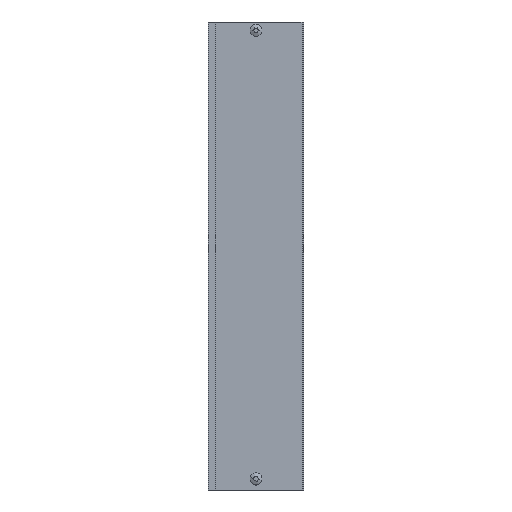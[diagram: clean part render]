
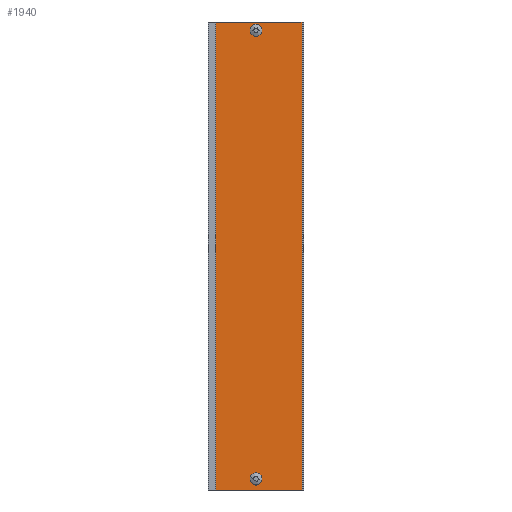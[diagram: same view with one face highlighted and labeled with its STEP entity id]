
A CAD part, front view. The second image highlights one B-rep face of the part: STEP entity #1940.
In plain terms, the highlighted planar face has unit normal (0, -1, 0).
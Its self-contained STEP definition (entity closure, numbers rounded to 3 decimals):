
#3 = ORIENTED_EDGE ( 'NONE', *, *, #999, .F. ) ;
#8 = CARTESIAN_POINT ( 'NONE',  ( -4.8, 11., 0. ) ) ;
#16 = EDGE_CURVE ( 'NONE', #1328, #409, #335, .T. ) ;
#30 = VECTOR ( 'NONE', #144, 1000. ) ;
#37 = VECTOR ( 'NONE', #804, 1000. ) ;
#80 = ORIENTED_EDGE ( 'NONE', *, *, #310, .T. ) ;
#82 = FACE_BOUND ( 'NONE', #1349, .T. ) ;
#101 = VERTEX_POINT ( 'NONE', #991 ) ;
#123 = ORIENTED_EDGE ( 'NONE', *, *, #197, .T. ) ;
#131 = CARTESIAN_POINT ( 'NONE',  ( 44.5, 11., 8.5 ) ) ;
#144 = DIRECTION ( 'NONE',  ( 1., 0., 0. ) ) ;
#155 = DIRECTION ( 'NONE',  ( 1., 0., 0. ) ) ;
#169 = CARTESIAN_POINT ( 'NONE',  ( 41., 11., 467.5 ) ) ;
#183 = CARTESIAN_POINT ( 'NONE',  ( 44.5, 11., 8.5 ) ) ;
#197 = EDGE_CURVE ( 'NONE', #304, #368, #229, .T. ) ;
#222 = EDGE_CURVE ( 'NONE', #823, #398, #1438, .T. ) ;
#229 = CIRCLE ( 'NONE', #1375, 3.5 ) ;
#235 = ORIENTED_EDGE ( 'NONE', *, *, #897, .T. ) ;
#238 = EDGE_CURVE ( 'NONE', #1618, #856, #1970, .T. ) ;
#246 = VERTEX_POINT ( 'NONE', #603 ) ;
#264 = ORIENTED_EDGE ( 'NONE', *, *, #731, .F. ) ;
#268 = DIRECTION ( 'NONE',  ( -1., 0., 0. ) ) ;
#276 = PLANE ( 'NONE',  #1584 ) ;
#280 = CARTESIAN_POINT ( 'NONE',  ( 41., 11., 8.5 ) ) ;
#296 = LINE ( 'NONE', #741, #30 ) ;
#301 = CARTESIAN_POINT ( 'NONE',  ( 37.5, 11., 8.5 ) ) ;
#304 = VERTEX_POINT ( 'NONE', #1719 ) ;
#310 = EDGE_CURVE ( 'NONE', #571, #823, #1797, .T. ) ;
#316 = ORIENTED_EDGE ( 'NONE', *, *, #933, .T. ) ;
#320 = DIRECTION ( 'NONE',  ( 0., 1., 0. ) ) ;
#335 = LINE ( 'NONE', #1913, #366 ) ;
#366 = VECTOR ( 'NONE', #1580, 1000. ) ;
#368 = VERTEX_POINT ( 'NONE', #301 ) ;
#373 = DIRECTION ( 'NONE',  ( 0., 0., 1. ) ) ;
#390 = DIRECTION ( 'NONE',  ( 0., 0., -1. ) ) ;
#391 = CIRCLE ( 'NONE', #887, 3.5 ) ;
#398 = VERTEX_POINT ( 'NONE', #552 ) ;
#400 = VERTEX_POINT ( 'NONE', #681 ) ;
#409 = VERTEX_POINT ( 'NONE', #1446 ) ;
#429 = FACE_BOUND ( 'NONE', #1183, .T. ) ;
#434 = VECTOR ( 'NONE', #992, 1000. ) ;
#438 = CARTESIAN_POINT ( 'NONE',  ( -4.8, 11., 479. ) ) ;
#451 = EDGE_CURVE ( 'NONE', #534, #571, #1284, .T. ) ;
#463 = EDGE_CURVE ( 'NONE', #101, #368, #674, .T. ) ;
#486 = DIRECTION ( 'NONE',  ( 1., 0., 0. ) ) ;
#534 = VERTEX_POINT ( 'NONE', #1979 ) ;
#538 = VECTOR ( 'NONE', #373, 1000. ) ;
#552 = CARTESIAN_POINT ( 'NONE',  ( 37.5, 11., 467.5 ) ) ;
#571 = VERTEX_POINT ( 'NONE', #1096 ) ;
#572 = CARTESIAN_POINT ( 'NONE',  ( 41., 11., 470.5 ) ) ;
#584 = DIRECTION ( 'NONE',  ( 0., 1., 0. ) ) ;
#603 = CARTESIAN_POINT ( 'NONE',  ( 86.8, 11., 479. ) ) ;
#626 = EDGE_LOOP ( 'NONE', ( #3, #1347, #264, #1993, #1202, #709, #1322, #1737 ) ) ;
#644 = LINE ( 'NONE', #653, #1704 ) ;
#653 = CARTESIAN_POINT ( 'NONE',  ( 90., 11., 479. ) ) ;
#657 = DIRECTION ( 'NONE',  ( -1., 0., 0. ) ) ;
#671 = DIRECTION ( 'NONE',  ( 0., 1., 0. ) ) ;
#674 = LINE ( 'NONE', #1150, #1407 ) ;
#681 = CARTESIAN_POINT ( 'NONE',  ( 44.5, 11., 11.5 ) ) ;
#692 = EDGE_CURVE ( 'NONE', #1435, #773, #1091, .T. ) ;
#709 = ORIENTED_EDGE ( 'NONE', *, *, #16, .F. ) ;
#718 = ORIENTED_EDGE ( 'NONE', *, *, #1796, .T. ) ;
#731 = EDGE_CURVE ( 'NONE', #246, #1618, #644, .T. ) ;
#741 = CARTESIAN_POINT ( 'NONE',  ( -6.5, 11., 479. ) ) ;
#773 = VERTEX_POINT ( 'NONE', #8 ) ;
#783 = CARTESIAN_POINT ( 'NONE',  ( 88.5, 11., 479. ) ) ;
#789 = CIRCLE ( 'NONE', #1930, 3.5 ) ;
#804 = DIRECTION ( 'NONE',  ( -1., 0., 0. ) ) ;
#808 = ORIENTED_EDGE ( 'NONE', *, *, #463, .F. ) ;
#823 = VERTEX_POINT ( 'NONE', #1480 ) ;
#826 = CARTESIAN_POINT ( 'NONE',  ( 41., 11., 8.5 ) ) ;
#842 = CARTESIAN_POINT ( 'NONE',  ( -8., 11., 0. ) ) ;
#856 = VERTEX_POINT ( 'NONE', #881 ) ;
#881 = CARTESIAN_POINT ( 'NONE',  ( 88.5, 11., 0. ) ) ;
#887 = AXIS2_PLACEMENT_3D ( 'NONE', #826, #671, #390 ) ;
#897 = EDGE_CURVE ( 'NONE', #1818, #534, #1065, .T. ) ;
#906 = DIRECTION ( 'NONE',  ( 0., 0., -1. ) ) ;
#933 = EDGE_CURVE ( 'NONE', #398, #1818, #1619, .T. ) ;
#955 = DIRECTION ( 'NONE',  ( 0., 0., -1. ) ) ;
#991 = CARTESIAN_POINT ( 'NONE',  ( 37.5, 11., 11.5 ) ) ;
#992 = DIRECTION ( 'NONE',  ( 0., 0., 1. ) ) ;
#999 = EDGE_CURVE ( 'NONE', #856, #1435, #1052, .T. ) ;
#1001 = LINE ( 'NONE', #842, #1911 ) ;
#1032 = CARTESIAN_POINT ( 'NONE',  ( -8., 11., 479. ) ) ;
#1037 = EDGE_CURVE ( 'NONE', #1675, #246, #296, .T. ) ;
#1044 = DIRECTION ( 'NONE',  ( 0., 1., 0. ) ) ;
#1050 = VERTEX_POINT ( 'NONE', #131 ) ;
#1052 = LINE ( 'NONE', #1678, #1646 ) ;
#1065 = CIRCLE ( 'NONE', #1486, 3.5 ) ;
#1091 = LINE ( 'NONE', #1402, #37 ) ;
#1096 = CARTESIAN_POINT ( 'NONE',  ( 44.5, 11., 467.5 ) ) ;
#1110 = CARTESIAN_POINT ( 'NONE',  ( -4.8, 11., 479. ) ) ;
#1134 = DIRECTION ( 'NONE',  ( 0., 0., -1. ) ) ;
#1150 = CARTESIAN_POINT ( 'NONE',  ( 37.5, 11., 8.5 ) ) ;
#1179 = AXIS2_PLACEMENT_3D ( 'NONE', #169, #320, #955 ) ;
#1183 = EDGE_LOOP ( 'NONE', ( #123, #808, #1360, #1647, #718 ) ) ;
#1202 = ORIENTED_EDGE ( 'NONE', *, *, #2006, .F. ) ;
#1234 = DIRECTION ( 'NONE',  ( 0., 0., -1. ) ) ;
#1284 = LINE ( 'NONE', #1912, #1733 ) ;
#1287 = CARTESIAN_POINT ( 'NONE',  ( -6.5, 11., 0. ) ) ;
#1305 = CARTESIAN_POINT ( 'NONE',  ( 41., 11., 11.5 ) ) ;
#1322 = ORIENTED_EDGE ( 'NONE', *, *, #1452, .F. ) ;
#1328 = VERTEX_POINT ( 'NONE', #1287 ) ;
#1347 = ORIENTED_EDGE ( 'NONE', *, *, #238, .F. ) ;
#1349 = EDGE_LOOP ( 'NONE', ( #235, #1554, #80, #1828, #316 ) ) ;
#1360 = ORIENTED_EDGE ( 'NONE', *, *, #1601, .T. ) ;
#1364 = CARTESIAN_POINT ( 'NONE',  ( 41., 11., 467.5 ) ) ;
#1370 = DIRECTION ( 'NONE',  ( 0., 0., 1. ) ) ;
#1375 = AXIS2_PLACEMENT_3D ( 'NONE', #280, #584, #906 ) ;
#1390 = LINE ( 'NONE', #438, #1559 ) ;
#1402 = CARTESIAN_POINT ( 'NONE',  ( 88.5, 11., 0. ) ) ;
#1407 = VECTOR ( 'NONE', #1769, 1000. ) ;
#1413 = EDGE_CURVE ( 'NONE', #1050, #400, #1460, .T. ) ;
#1435 = VERTEX_POINT ( 'NONE', #1763 ) ;
#1438 = CIRCLE ( 'NONE', #1932, 3.5 ) ;
#1446 = CARTESIAN_POINT ( 'NONE',  ( -6.5, 11., 479. ) ) ;
#1452 = EDGE_CURVE ( 'NONE', #773, #1328, #1001, .T. ) ;
#1456 = CARTESIAN_POINT ( 'NONE',  ( 37.5, 11., 470.5 ) ) ;
#1460 = LINE ( 'NONE', #183, #434 ) ;
#1480 = CARTESIAN_POINT ( 'NONE',  ( 41., 11., 464. ) ) ;
#1486 = AXIS2_PLACEMENT_3D ( 'NONE', #572, #1044, #1812 ) ;
#1528 = DIRECTION ( 'NONE',  ( 0., 1., 0. ) ) ;
#1532 = DIRECTION ( 'NONE',  ( 0., 0., -1. ) ) ;
#1538 = DIRECTION ( 'NONE',  ( 0., 0., -1. ) ) ;
#1554 = ORIENTED_EDGE ( 'NONE', *, *, #451, .T. ) ;
#1559 = VECTOR ( 'NONE', #155, 1000. ) ;
#1580 = DIRECTION ( 'NONE',  ( 0., 0., 1. ) ) ;
#1584 = AXIS2_PLACEMENT_3D ( 'NONE', #1032, #1528, #1370 ) ;
#1601 = EDGE_CURVE ( 'NONE', #101, #400, #789, .T. ) ;
#1618 = VERTEX_POINT ( 'NONE', #783 ) ;
#1619 = LINE ( 'NONE', #1768, #538 ) ;
#1646 = VECTOR ( 'NONE', #268, 1000. ) ;
#1647 = ORIENTED_EDGE ( 'NONE', *, *, #1413, .F. ) ;
#1658 = FACE_OUTER_BOUND ( 'NONE', #626, .T. ) ;
#1675 = VERTEX_POINT ( 'NONE', #1110 ) ;
#1678 = CARTESIAN_POINT ( 'NONE',  ( 86.8, 11., 0. ) ) ;
#1704 = VECTOR ( 'NONE', #486, 1000. ) ;
#1719 = CARTESIAN_POINT ( 'NONE',  ( 41., 11., 5. ) ) ;
#1733 = VECTOR ( 'NONE', #1134, 1000. ) ;
#1737 = ORIENTED_EDGE ( 'NONE', *, *, #692, .F. ) ;
#1763 = CARTESIAN_POINT ( 'NONE',  ( 86.8, 11., 0. ) ) ;
#1764 = VECTOR ( 'NONE', #1538, 1000. ) ;
#1768 = CARTESIAN_POINT ( 'NONE',  ( 37.5, 11., 470.5 ) ) ;
#1769 = DIRECTION ( 'NONE',  ( 0., 0., -1. ) ) ;
#1796 = EDGE_CURVE ( 'NONE', #1050, #304, #391, .T. ) ;
#1797 = CIRCLE ( 'NONE', #1179, 3.5 ) ;
#1812 = DIRECTION ( 'NONE',  ( 0., 0., -1. ) ) ;
#1818 = VERTEX_POINT ( 'NONE', #1456 ) ;
#1828 = ORIENTED_EDGE ( 'NONE', *, *, #222, .T. ) ;
#1911 = VECTOR ( 'NONE', #657, 1000. ) ;
#1912 = CARTESIAN_POINT ( 'NONE',  ( 44.5, 11., 470.5 ) ) ;
#1913 = CARTESIAN_POINT ( 'NONE',  ( -6.5, 11., 479. ) ) ;
#1930 = AXIS2_PLACEMENT_3D ( 'NONE', #1305, #1931, #1234 ) ;
#1931 = DIRECTION ( 'NONE',  ( 0., 1., 0. ) ) ;
#1932 = AXIS2_PLACEMENT_3D ( 'NONE', #1364, #1997, #1532 ) ;
#1940 = ADVANCED_FACE ( 'NONE', ( #429, #82, #1658 ), #276, .F. ) ;
#1970 = LINE ( 'NONE', #1988, #1764 ) ;
#1979 = CARTESIAN_POINT ( 'NONE',  ( 44.5, 11., 470.5 ) ) ;
#1988 = CARTESIAN_POINT ( 'NONE',  ( 88.5, 11., 479. ) ) ;
#1993 = ORIENTED_EDGE ( 'NONE', *, *, #1037, .F. ) ;
#1997 = DIRECTION ( 'NONE',  ( 0., 1., 0. ) ) ;
#2006 = EDGE_CURVE ( 'NONE', #409, #1675, #1390, .T. ) ;
